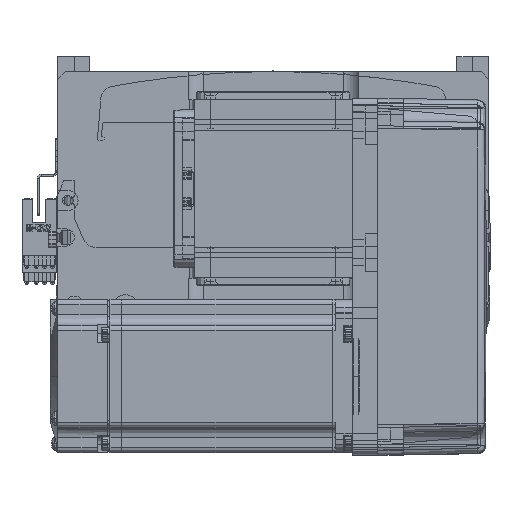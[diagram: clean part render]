
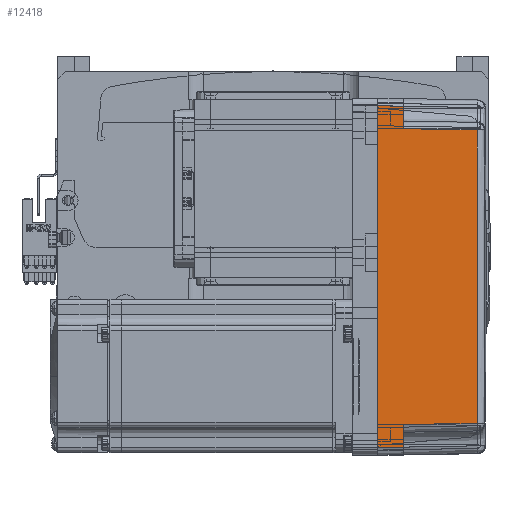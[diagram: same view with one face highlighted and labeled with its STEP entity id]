
A CAD part, top view. The second image highlights one B-rep face of the part: STEP entity #12418.
In plain terms, the highlighted planar face has unit normal (0.018, 0, 1) as drawn and (0, 1, 0.017) by its records, which use the part's own axes.
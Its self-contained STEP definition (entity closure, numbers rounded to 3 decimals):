
#384 = VERTEX_POINT ( 'NONE', #74209 ) ;
#1707 = CARTESIAN_POINT ( 'NONE',  ( 57.495, 35.32, 38.985 ) ) ;
#2300 = ORIENTED_EDGE ( 'NONE', *, *, #58999, .F. ) ;
#3364 = CARTESIAN_POINT ( 'NONE',  ( -58., 35.825, 10. ) ) ;
#3540 = LINE ( 'NONE', #17514, #29890 ) ;
#5358 = LINE ( 'NONE', #64590, #38019 ) ;
#5380 = DIRECTION ( 'NONE',  ( 1., 0., 0. ) ) ;
#6658 = CARTESIAN_POINT ( 'NONE',  ( 0., 36., 0. ) ) ;
#6663 = CARTESIAN_POINT ( 'NONE',  ( 67., 36., 0. ) ) ;
#8241 = PLANE ( 'NONE',  #19688 ) ;
#8282 = EDGE_CURVE ( 'NONE', #13771, #66878, #5358, .T. ) ;
#8593 = EDGE_CURVE ( 'NONE', #66878, #384, #47858, .T. ) ;
#11814 = EDGE_CURVE ( 'NONE', #71878, #56516, #3540, .T. ) ;
#12418 = ADVANCED_FACE ( 'NONE', ( #26116 ), #8241, .T. ) ;
#13771 = VERTEX_POINT ( 'NONE', #17794 ) ;
#17045 = EDGE_CURVE ( 'NONE', #29403, #71878, #57560, .T. ) ;
#17514 = CARTESIAN_POINT ( 'NONE',  ( 70., 35.825, 10. ) ) ;
#17794 = CARTESIAN_POINT ( 'NONE',  ( -66.826, 35.825, 10. ) ) ;
#18666 = CARTESIAN_POINT ( 'NONE',  ( 19.165, 35.316, 39.181 ) ) ;
#18921 = CARTESIAN_POINT ( 'NONE',  ( -19.165, 35.316, 39.181 ) ) ;
#19688 = AXIS2_PLACEMENT_3D ( 'NONE', #37202, #60083, #65646 ) ;
#19827 = VECTOR ( 'NONE', #71086, 1000. ) ;
#23778 = EDGE_CURVE ( 'NONE', #68434, #56516, #66574, .T. ) ;
#25035 = CARTESIAN_POINT ( 'NONE',  ( -57.495, 35.32, 38.985 ) ) ;
#25105 = VECTOR ( 'NONE', #69606, 1000. ) ;
#26116 = FACE_OUTER_BOUND ( 'NONE', #32257, .T. ) ;
#28304 = ORIENTED_EDGE ( 'NONE', *, *, #23778, .F. ) ;
#29403 = VERTEX_POINT ( 'NONE', #58541 ) ;
#29890 = VECTOR ( 'NONE', #5380, 1000. ) ;
#32081 = CARTESIAN_POINT ( 'NONE',  ( 58., 35.825, 10. ) ) ;
#32257 = EDGE_LOOP ( 'NONE', ( #34805, #67499, #43246, #38921, #36438, #61360, #28304, #2300 ) ) ;
#32499 = VECTOR ( 'NONE', #50177, 1000. ) ;
#32595 = LINE ( 'NONE', #6658, #19827 ) ;
#34805 = ORIENTED_EDGE ( 'NONE', *, *, #51639, .T. ) ;
#36438 = ORIENTED_EDGE ( 'NONE', *, *, #17045, .T. ) ;
#37202 = CARTESIAN_POINT ( 'NONE',  ( 70., 36., 0. ) ) ;
#37653 = CARTESIAN_POINT ( 'NONE',  ( 67.001, 36.001, -0.052 ) ) ;
#38019 = VECTOR ( 'NONE', #70373, 1000. ) ;
#38175 = DIRECTION ( 'NONE',  ( 0.017, -0.017, 1. ) ) ;
#38921 = ORIENTED_EDGE ( 'NONE', *, *, #51407, .T. ) ;
#43246 = ORIENTED_EDGE ( 'NONE', *, *, #8593, .T. ) ;
#45006 = VECTOR ( 'NONE', #54489, 1000. ) ;
#47320 = CARTESIAN_POINT ( 'NONE',  ( 66.826, 35.825, 10. ) ) ;
#47858 = LINE ( 'NONE', #3364, #32499 ) ;
#49295 = CARTESIAN_POINT ( 'NONE',  ( -67., 36., 0. ) ) ;
#50177 = DIRECTION ( 'NONE',  ( 0.017, -0.017, 1. ) ) ;
#51407 = EDGE_CURVE ( 'NONE', #384, #29403, #69761, .T. ) ;
#51639 = EDGE_CURVE ( 'NONE', #72731, #13771, #55537, .T. ) ;
#51993 = CARTESIAN_POINT ( 'NONE',  ( 57.495, 35.32, 38.985 ) ) ;
#54489 = DIRECTION ( 'NONE',  ( -0.017, -0.017, 1. ) ) ;
#55537 = LINE ( 'NONE', #72871, #60978 ) ;
#56516 = VERTEX_POINT ( 'NONE', #47320 ) ;
#57560 = LINE ( 'NONE', #51993, #25105 ) ;
#58541 = CARTESIAN_POINT ( 'NONE',  ( 57.495, 35.32, 38.985 ) ) ;
#58999 = EDGE_CURVE ( 'NONE', #72731, #68434, #32595, .T. ) ;
#60083 = DIRECTION ( 'NONE',  ( 0., 1., 0.017 ) ) ;
#60978 = VECTOR ( 'NONE', #38175, 1000. ) ;
#61360 = ORIENTED_EDGE ( 'NONE', *, *, #11814, .T. ) ;
#64590 = CARTESIAN_POINT ( 'NONE',  ( 70., 35.825, 10. ) ) ;
#65646 = DIRECTION ( 'NONE',  ( 0., -0.017, 1. ) ) ;
#66574 = LINE ( 'NONE', #37653, #45006 ) ;
#66878 = VERTEX_POINT ( 'NONE', #74231 ) ;
#67499 = ORIENTED_EDGE ( 'NONE', *, *, #8282, .T. ) ;
#68434 = VERTEX_POINT ( 'NONE', #6663 ) ;
#69606 = DIRECTION ( 'NONE',  ( 0.017, 0.017, -1. ) ) ;
#69761 = B_SPLINE_CURVE_WITH_KNOTS ( 'NONE', 3,
 ( #25035, #18921, #18666, #1707 ),
 .UNSPECIFIED., .F., .F.,
 ( 4, 4 ),
 ( 0., 1. ),
 .UNSPECIFIED. ) ;
#70373 = DIRECTION ( 'NONE',  ( 1., 0., 0. ) ) ;
#71086 = DIRECTION ( 'NONE',  ( 1., 0., 0. ) ) ;
#71878 = VERTEX_POINT ( 'NONE', #32081 ) ;
#72731 = VERTEX_POINT ( 'NONE', #49295 ) ;
#72871 = CARTESIAN_POINT ( 'NONE',  ( -67., 36., 0. ) ) ;
#74209 = CARTESIAN_POINT ( 'NONE',  ( -57.495, 35.32, 38.985 ) ) ;
#74231 = CARTESIAN_POINT ( 'NONE',  ( -58., 35.825, 10. ) ) ;
